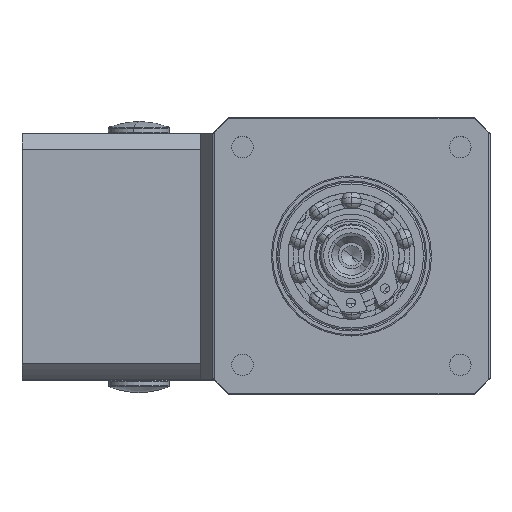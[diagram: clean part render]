
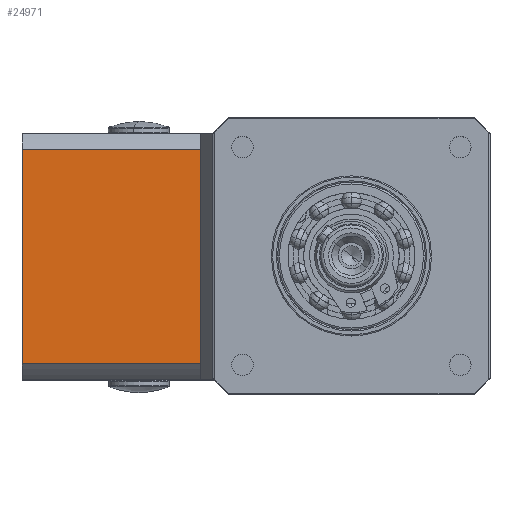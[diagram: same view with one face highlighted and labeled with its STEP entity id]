
A CAD part, top view. The second image highlights one B-rep face of the part: STEP entity #24971.
In plain terms, the highlighted planar face has unit normal (0, 0, 1).
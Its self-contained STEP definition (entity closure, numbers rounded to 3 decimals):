
#2039 = LINE ( 'NONE', #22230, #20434 ) ;
#5322 = EDGE_CURVE ( 'NONE', #43648, #38078, #43879, .T. ) ;
#8174 = CARTESIAN_POINT ( 'NONE',  ( -29.31, -3.523, -26.75 ) ) ;
#8333 = VECTOR ( 'NONE', #10766, 1000. ) ;
#10226 = DIRECTION ( 'NONE',  ( 0., 1., 0. ) ) ;
#10766 = DIRECTION ( 'NONE',  ( -1., 0., 0. ) ) ;
#11606 = DIRECTION ( 'NONE',  ( 1., 0., 0. ) ) ;
#13209 = ORIENTED_EDGE ( 'NONE', *, *, #23659, .T. ) ;
#14323 = CARTESIAN_POINT ( 'NONE',  ( -29.31, 33.862, -26.75 ) ) ;
#15312 = VERTEX_POINT ( 'NONE', #41553 ) ;
#15379 = CARTESIAN_POINT ( 'NONE',  ( -58.31, 33.862, -26.75 ) ) ;
#16757 = FACE_OUTER_BOUND ( 'NONE', #44161, .T. ) ;
#16908 = LINE ( 'NONE', #46164, #44578 ) ;
#20434 = VECTOR ( 'NONE', #34277, 1000. ) ;
#22117 = EDGE_CURVE ( 'NONE', #43648, #15312, #16908, .T. ) ;
#22230 = CARTESIAN_POINT ( 'NONE',  ( -58.31, 33.862, -26.75 ) ) ;
#23659 = EDGE_CURVE ( 'NONE', #38078, #30209, #45767, .T. ) ;
#24971 = ADVANCED_FACE ( 'NONE', ( #16757 ), #47023, .F. ) ;
#26335 = CARTESIAN_POINT ( 'NONE',  ( -29.31, 31.247, -26.75 ) ) ;
#30209 = VERTEX_POINT ( 'NONE', #39834 ) ;
#30244 = DIRECTION ( 'NONE',  ( -1., 0., 0. ) ) ;
#30259 = ORIENTED_EDGE ( 'NONE', *, *, #22117, .F. ) ;
#30648 = AXIS2_PLACEMENT_3D ( 'NONE', #15379, #47199, #11606 ) ;
#33350 = VECTOR ( 'NONE', #10226, 1000. ) ;
#34277 = DIRECTION ( 'NONE',  ( 0., 1., 0. ) ) ;
#36482 = CARTESIAN_POINT ( 'NONE',  ( -29.31, 31.247, -26.75 ) ) ;
#38078 = VERTEX_POINT ( 'NONE', #36482 ) ;
#39834 = CARTESIAN_POINT ( 'NONE',  ( -58.31, 31.247, -26.75 ) ) ;
#41553 = CARTESIAN_POINT ( 'NONE',  ( -58.31, -3.523, -26.75 ) ) ;
#43229 = ORIENTED_EDGE ( 'NONE', *, *, #47722, .F. ) ;
#43648 = VERTEX_POINT ( 'NONE', #8174 ) ;
#43879 = LINE ( 'NONE', #14323, #33350 ) ;
#44161 = EDGE_LOOP ( 'NONE', ( #13209, #43229, #30259, #48324 ) ) ;
#44578 = VECTOR ( 'NONE', #30244, 1000. ) ;
#45767 = LINE ( 'NONE', #26335, #8333 ) ;
#46164 = CARTESIAN_POINT ( 'NONE',  ( -29.31, -3.523, -26.75 ) ) ;
#47023 = PLANE ( 'NONE',  #30648 ) ;
#47199 = DIRECTION ( 'NONE',  ( 0., 0., -1. ) ) ;
#47722 = EDGE_CURVE ( 'NONE', #15312, #30209, #2039, .T. ) ;
#48324 = ORIENTED_EDGE ( 'NONE', *, *, #5322, .T. ) ;
